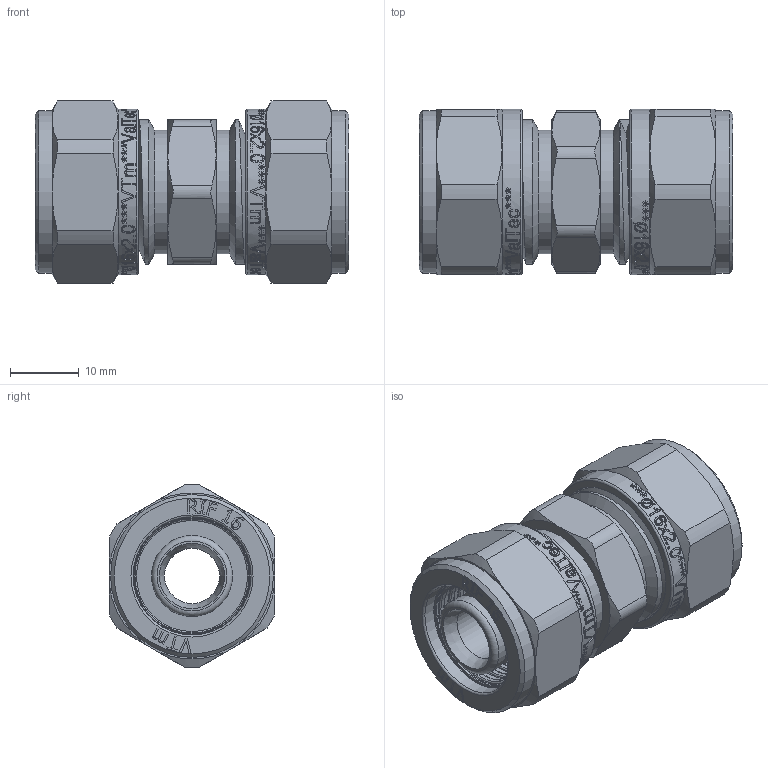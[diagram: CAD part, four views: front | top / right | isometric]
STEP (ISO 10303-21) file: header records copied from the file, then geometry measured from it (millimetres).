
FILE_DESCRIPTION(/* description */ (''),/* implementation_level */ '2;1');
FILE_NAME(/* name */ 'E:\Артём\00000\Работа удаленка\Обжимные фитинги\VTm.303.N.001616.stp',/* time_stamp */ '2020-06-10T15:35:47+03:00',/* author */ ('BeN_GaN'),/* organization */ (''),/* preprocessor_version */ 'ST-DEVELOPER v18',/* originating_system */ 'Autodesk Inventor 2020',/* authorisation */ '');
FILE_SCHEMA (('AUTOMOTIVE_DESIGN { 1 0 10303 214 3 1 1 }'));
Products named in the file (1): VTm.303.N.001616
Bounding box: 45.55 x 24 x 26.51 mm (x, y, z)
Volume: 13122.4 mm3; surface area: 10038.6 mm2
Topology: 1 solids, 3 shells, 1273 faces, 3547 edges, 2390 vertices
Faces by surface type: bspline 676, plane 354, cylinder 139, cone 54, torus 50
Full cylindrical faces by diameter (mm): 8 x1, 9.4 x4, 11.75 x8, 16.124 x8, 16.2 x2, 16.724 x10, 17.124 x2, 17.999 x2, 18.724 x2, 21 x2, 23.624 x2, 24 x2
Entity records: 51922 total; most frequent: CARTESIAN_POINT 23443, ORIENTED_EDGE 7094, DIRECTION 3911, EDGE_CURVE 3547, VERTEX_POINT 2390, LINE 1467, VECTOR 1467, EDGE_LOOP 1389
